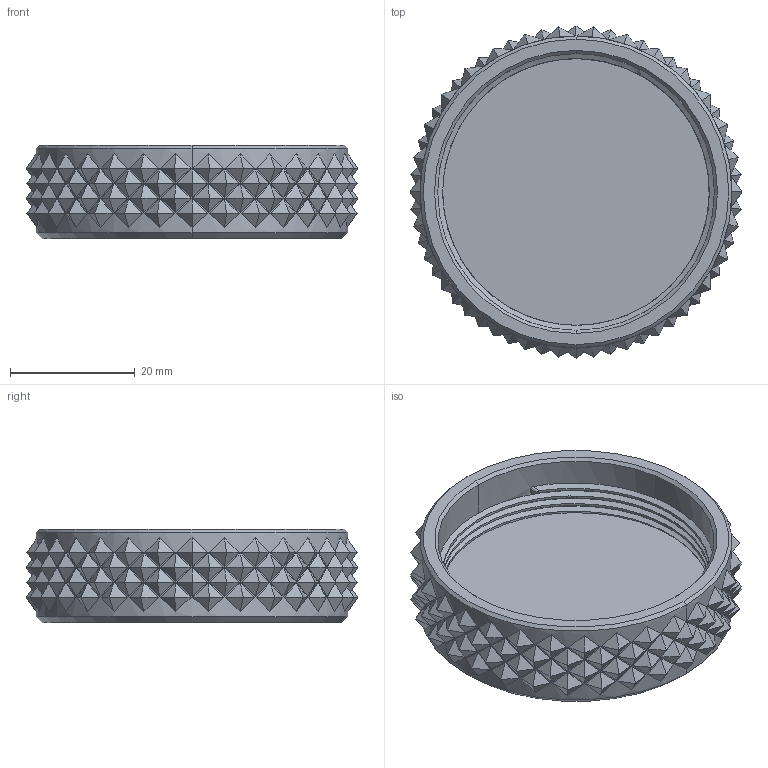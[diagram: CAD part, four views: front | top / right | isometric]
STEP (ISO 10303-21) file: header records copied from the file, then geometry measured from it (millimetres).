
FILE_DESCRIPTION (( 'STEP AP214' ), '1' );
FILE_NAME ('LID KNURLING PATTERN.STEP', '2023-09-26T15:05:40', ( '' ), ( '' ), 'SwSTEP 2.0', 'SolidWorks 2023', '' );
FILE_SCHEMA (( 'AUTOMOTIVE_DESIGN' ));
Length unit declared in the file: millimetre
Products named in the file (1): LID KNURLING PATTERN
Bounding box: 53.24 x 53.24 x 15 mm (x, y, z)
Volume: 14852.2 mm3; surface area: 8368.6 mm2
Topology: 1 solids, 1 shells, 504 faces, 1023 edges, 638 vertices
Faces by surface type: plane 483, cylinder 9, cone 6, bspline 6
Entity records: 13837 total; most frequent: CARTESIAN_POINT 4794, ORIENTED_EDGE 2046, DIRECTION 1521, EDGE_CURVE 1023, VERTEX_POINT 638, EDGE_LOOP 621, AXIS2_PLACEMENT_3D 511, FACE_OUTER_BOUND 504
